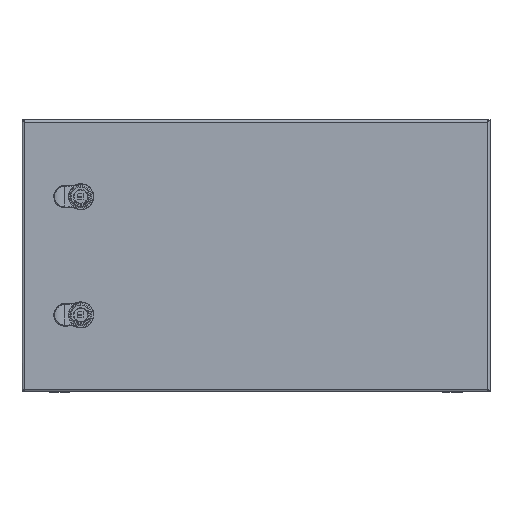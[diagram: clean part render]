
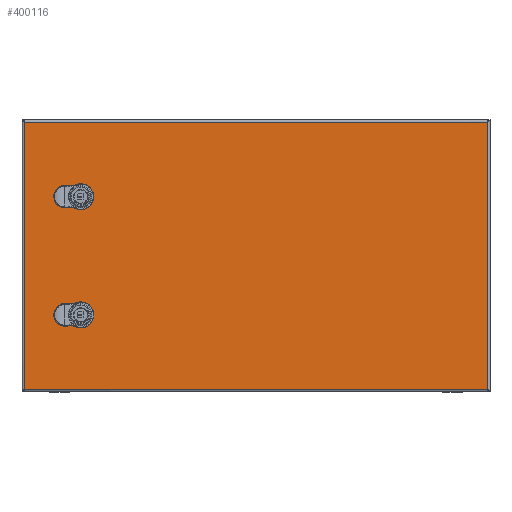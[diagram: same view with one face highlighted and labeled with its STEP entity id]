
A CAD part, top view. The second image highlights one B-rep face of the part: STEP entity #400116.
In plain terms, the highlighted planar face has unit normal (0, 0, 1).
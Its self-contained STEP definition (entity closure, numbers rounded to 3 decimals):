
#394366=CARTESIAN_POINT(' ',(284.635,176.56,228.253));
#394367=VERTEX_POINT(' ',#394366);
#395031=CARTESIAN_POINT(' ',(284.635,-162.84,228.253));
#395032=VERTEX_POINT(' ',#395031);
#395876=CARTESIAN_POINT(' ',(284.635,176.56,228.253));
#395881=DIRECTION(' ',(0.,-1.,0.));
#395886=VECTOR(' ',#395881,1.);
#395891=LINE('',#395876,#395886);
#395896=EDGE_CURVE(' ',#394367,#395032,#395891,.T.);
#397881=CARTESIAN_POINT(' ',(-303.765,-162.84,228.253));
#397882=VERTEX_POINT(' ',#397881);
#398316=CARTESIAN_POINT(' ',(-303.765,176.56,228.253));
#398317=VERTEX_POINT(' ',#398316);
#399986=DIRECTION(' ',(-0.,-0.,1.));
#399991=CARTESIAN_POINT(' ',(284.635,-162.84,228.253));
#399996=DIRECTION(' ',(0.,1.,0.));
#400001=AXIS2_PLACEMENT_3D(' ',#399991,#399986,#399996);
#400006=PLANE('NONE',#400001);
#400011=CARTESIAN_POINT(' ',(-303.765,-162.84,228.253));
#400016=DIRECTION(' ',(1.,0.,0.));
#400021=VECTOR(' ',#400016,1.);
#400026=LINE('',#400011,#400021);
#400031=EDGE_CURVE(' ',#397882,#395032,#400026,.T.);
#400036=ORIENTED_EDGE(' ',*,*,#400031,.T.);
#400041=ORIENTED_EDGE(' ',*,*,#395896,.F.);
#400046=CARTESIAN_POINT(' ',(284.635,176.56,228.253));
#400051=DIRECTION(' ',(-1.,0.,0.));
#400056=VECTOR(' ',#400051,1.);
#400061=LINE('',#400046,#400056);
#400066=EDGE_CURVE(' ',#394367,#398317,#400061,.T.);
#400071=ORIENTED_EDGE(' ',*,*,#400066,.T.);
#400076=CARTESIAN_POINT(' ',(-303.765,176.56,228.253));
#400081=DIRECTION(' ',(0.,-1.,0.));
#400086=VECTOR(' ',#400081,1.);
#400091=LINE('',#400076,#400086);
#400096=EDGE_CURVE(' ',#398317,#397882,#400091,.T.);
#400101=ORIENTED_EDGE(' ',*,*,#400096,.T.);
#400106=EDGE_LOOP(' ',(#400036,#400041,#400071,#400101));
#400111=FACE_OUTER_BOUND(' ',#400106,.T.);
#400116=ADVANCED_FACE('NONE',(#400111),#400006,.T.);
